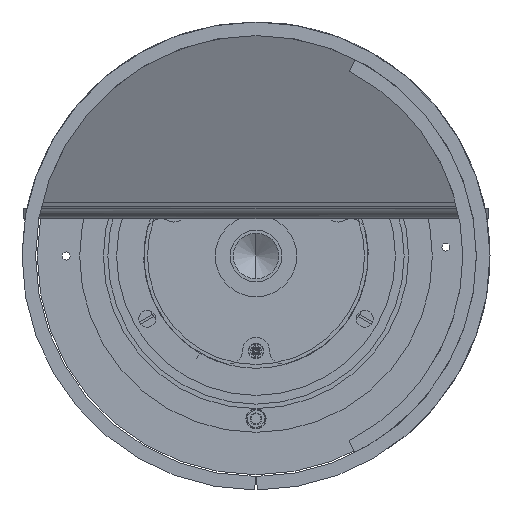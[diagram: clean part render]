
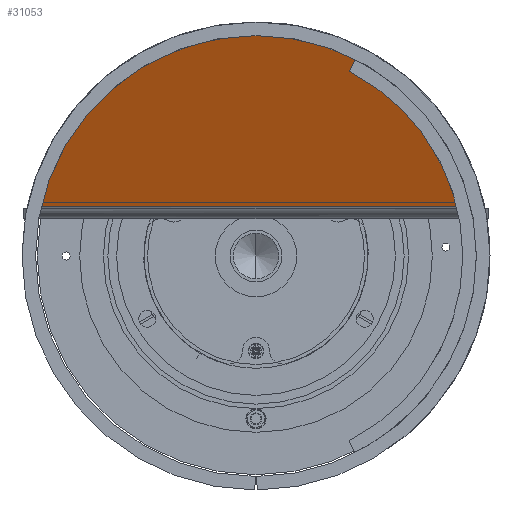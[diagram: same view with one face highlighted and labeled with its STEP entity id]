
A CAD part, front view. The second image highlights one B-rep face of the part: STEP entity #31053.
In plain terms, the highlighted planar face has unit normal (0, -0.913, -0.407).
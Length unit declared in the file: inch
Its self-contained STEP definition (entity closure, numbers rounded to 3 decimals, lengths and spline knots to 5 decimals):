
#1314 = VERTEX_POINT ( 'NONE', #3590 ) ;
#1915 = CARTESIAN_POINT ( 'NONE',  ( -2.35962, 37.83594, 3.47163 ) ) ;
#1942 = CIRCLE ( 'NONE', #23404, 4.045 ) ;
#3385 = ORIENTED_EDGE ( 'NONE', *, *, #35486, .F. ) ;
#3564 = EDGE_CURVE ( 'NONE', #14236, #5633, #29597, .T. ) ;
#3590 = CARTESIAN_POINT ( 'NONE',  ( 0., 37.52701, 4.16551 ) ) ;
#3661 = EDGE_CURVE ( 'NONE', #34729, #11194, #17513, .T. ) ;
#4373 = CARTESIAN_POINT ( 'NONE',  ( 4.1604, 38.97737, 0.90794 ) ) ;
#4669 = CARTESIAN_POINT ( 'NONE',  ( -28.76854, 38.97737, 0.90794 ) ) ;
#5633 = VERTEX_POINT ( 'NONE', #1915 ) ;
#6294 = CARTESIAN_POINT ( 'NONE',  ( -0.6, 39.41412, -0.073 ) ) ;
#6429 = DIRECTION ( 'NONE',  ( 0., 0.914, 0.407 ) ) ;
#6846 = CARTESIAN_POINT ( 'NONE',  ( 2.35962, 37.83594, 3.47163 ) ) ;
#7226 = CARTESIAN_POINT ( 'NONE',  ( 0., 39.17226, 0.47022 ) ) ;
#7403 = AXIS2_PLACEMENT_3D ( 'NONE', #21519, #24727, #27576 ) ;
#9127 = DIRECTION ( 'NONE',  ( 0., -0.407, 0.914 ) ) ;
#10129 = EDGE_CURVE ( 'NONE', #1314, #34729, #34300, .T. ) ;
#10250 = DIRECTION ( 'NONE',  ( 0., 0.914, 0.407 ) ) ;
#10252 = DIRECTION ( 'NONE',  ( 0., 0.914, 0.407 ) ) ;
#11194 = VERTEX_POINT ( 'NONE', #4373 ) ;
#12158 = ORIENTED_EDGE ( 'NONE', *, *, #10129, .F. ) ;
#12677 = CARTESIAN_POINT ( 'NONE',  ( 0.6, 39.41412, -0.073 ) ) ;
#14236 = VERTEX_POINT ( 'NONE', #14716 ) ;
#14716 = CARTESIAN_POINT ( 'NONE',  ( -4.1604, 38.97737, 0.90794 ) ) ;
#17513 = CIRCLE ( 'NONE', #36547, 4.88 ) ;
#18692 = DIRECTION ( 'NONE',  ( 0., -0.407, 0.914 ) ) ;
#20025 = DIRECTION ( 'NONE',  ( -1., 0., 0. ) ) ;
#20788 = EDGE_CURVE ( 'NONE', #5633, #1314, #1942, .T. ) ;
#20838 = AXIS2_PLACEMENT_3D ( 'NONE', #12677, #10252, #38411 ) ;
#21519 = CARTESIAN_POINT ( 'NONE',  ( 0., 39.17226, 0.47022 ) ) ;
#21532 = LINE ( 'NONE', #4669, #26318 ) ;
#22449 = ORIENTED_EDGE ( 'NONE', *, *, #20788, .F. ) ;
#23404 = AXIS2_PLACEMENT_3D ( 'NONE', #7226, #10250, #37982 ) ;
#24195 = DIRECTION ( 'NONE',  ( 0., 0.914, 0.407 ) ) ;
#24312 = CARTESIAN_POINT ( 'NONE',  ( 0.6, 39.41412, -0.073 ) ) ;
#24727 = DIRECTION ( 'NONE',  ( 0., 0.914, 0.407 ) ) ;
#25419 = ORIENTED_EDGE ( 'NONE', *, *, #3564, .F. ) ;
#26188 = ORIENTED_EDGE ( 'NONE', *, *, #3661, .F. ) ;
#26318 = VECTOR ( 'NONE', #20025, 39.37008 ) ;
#27576 = DIRECTION ( 'NONE',  ( 0., -0.407, 0.914 ) ) ;
#28531 = FACE_OUTER_BOUND ( 'NONE', #36420, .T. ) ;
#29597 = CIRCLE ( 'NONE', #33738, 4.88 ) ;
#31053 = ADVANCED_FACE ( 'NONE', ( #28531 ), #31092, .F. ) ;
#31092 = PLANE ( 'NONE',  #20838 ) ;
#33738 = AXIS2_PLACEMENT_3D ( 'NONE', #24312, #24195, #9127 ) ;
#34300 = CIRCLE ( 'NONE', #7403, 4.045 ) ;
#34729 = VERTEX_POINT ( 'NONE', #6846 ) ;
#35486 = EDGE_CURVE ( 'NONE', #11194, #14236, #21532, .T. ) ;
#36420 = EDGE_LOOP ( 'NONE', ( #26188, #12158, #22449, #25419, #3385 ) ) ;
#36547 = AXIS2_PLACEMENT_3D ( 'NONE', #6294, #6429, #18692 ) ;
#37982 = DIRECTION ( 'NONE',  ( 0., -0.407, 0.914 ) ) ;
#38411 = DIRECTION ( 'NONE',  ( 0., -0.407, 0.914 ) ) ;
